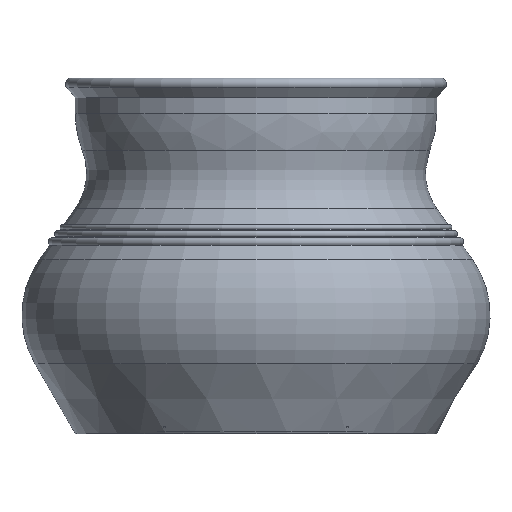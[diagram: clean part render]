
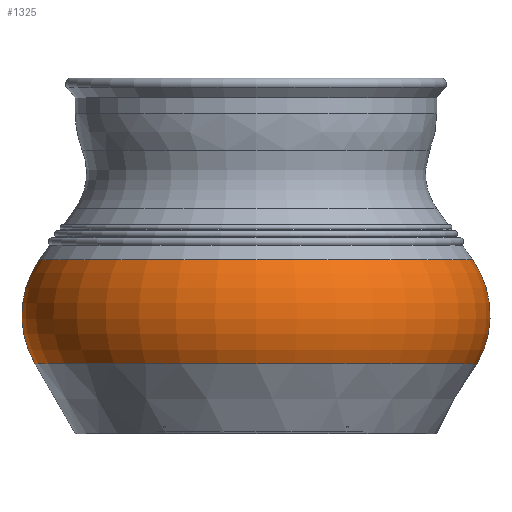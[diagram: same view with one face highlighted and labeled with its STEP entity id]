
A CAD part, front view. The second image highlights one B-rep face of the part: STEP entity #1325.
In plain terms, the highlighted toroidal (fillet/blend) face has major radius 115.512 mm and minor radius 81.848 mm.
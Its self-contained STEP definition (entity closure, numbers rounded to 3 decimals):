
#22=TOROIDAL_SURFACE('',#1503,115.512,81.848);
#166=FACE_OUTER_BOUND('',#284,.T.);
#284=EDGE_LOOP('',(#1208,#1209,#1210,#1211));
#526=CIRCLE('',#1467,186.432);
#549=CIRCLE('',#1504,182.52);
#550=CIRCLE('',#1505,81.848);
#653=VERTEX_POINT('',#2234);
#669=VERTEX_POINT('',#2349);
#818=EDGE_CURVE('',#653,#653,#526,.T.);
#849=EDGE_CURVE('',#669,#669,#549,.T.);
#850=EDGE_CURVE('',#669,#653,#550,.T.);
#1208=ORIENTED_EDGE('',*,*,#849,.F.);
#1209=ORIENTED_EDGE('',*,*,#850,.T.);
#1210=ORIENTED_EDGE('',*,*,#818,.T.);
#1211=ORIENTED_EDGE('',*,*,#850,.F.);
#1325=ADVANCED_FACE('',(#166),#22,.T.);
#1467=AXIS2_PLACEMENT_3D('',#2235,#1835,#1836);
#1503=AXIS2_PLACEMENT_3D('',#2348,#1915,#1916);
#1504=AXIS2_PLACEMENT_3D('',#2350,#1917,#1918);
#1505=AXIS2_PLACEMENT_3D('',#2351,#1919,#1920);
#1835=DIRECTION('center_axis',(0.,0.,1.));
#1836=DIRECTION('ref_axis',(1.,0.,0.));
#1915=DIRECTION('center_axis',(0.,0.,1.));
#1916=DIRECTION('ref_axis',(1.,0.,0.));
#1917=DIRECTION('center_axis',(0.,0.,1.));
#1918=DIRECTION('ref_axis',(1.,0.,0.));
#1919=DIRECTION('center_axis',(0.,-1.,0.));
#1920=DIRECTION('ref_axis',(-1.,0.,0.));
#2234=CARTESIAN_POINT('',(-186.432,0.,59.142));
#2235=CARTESIAN_POINT('Origin',(0.,0.,59.142));
#2348=CARTESIAN_POINT('Origin',(0.,0.,100.));
#2349=CARTESIAN_POINT('',(-182.52,0.,147.));
#2350=CARTESIAN_POINT('Origin',(0.,0.,147.));
#2351=CARTESIAN_POINT('Origin',(-115.512,0.,
100.));
